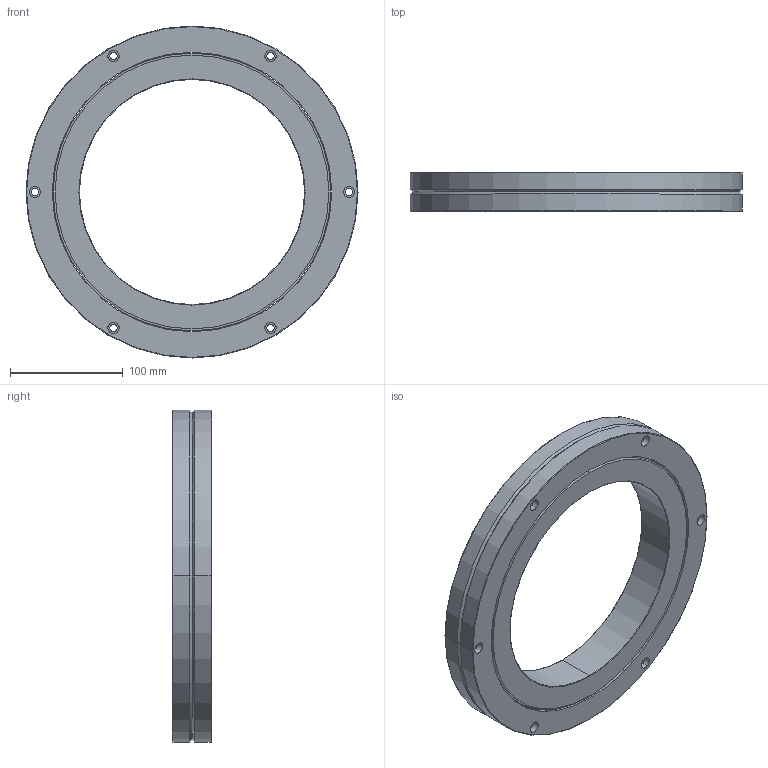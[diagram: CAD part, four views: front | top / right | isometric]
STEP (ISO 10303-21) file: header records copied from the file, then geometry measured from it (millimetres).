
FILE_DESCRIPTION((''),'2;1');
FILE_NAME('RB20035','2015-08-27T',('Administrator'),(''),'PRO/ENGINEER BY PARAMETRIC TECHNOLOGY CORPORATION, 2010180','PRO/ENGINEER BY PARAMETRIC TECHNOLOGY CORPORATION, 2010180','');
FILE_SCHEMA(('AUTOMOTIVE_DESIGN_CC2 { 1 2 10303 214 -1 1 5 2 }'));
Length unit declared in the file: millimetre
Products named in the file (1): RB20035
Bounding box: 295 x 35 x 295 mm (x, y, z)
Volume: 1076879 mm3; surface area: 209590.4 mm2
Topology: 2 solids, 2 shells, 104 faces, 220 edges, 138 vertices
Faces by surface type: cylinder 62, plane 22, cone 12, torus 8
Entity records: 2965 total; most frequent: DIRECTION 574, CARTESIAN_POINT 462, ORIENTED_EDGE 440, AXIS2_PLACEMENT_3D 250, EDGE_CURVE 220, CIRCLE 146, VERTEX_POINT 138, EDGE_LOOP 138
